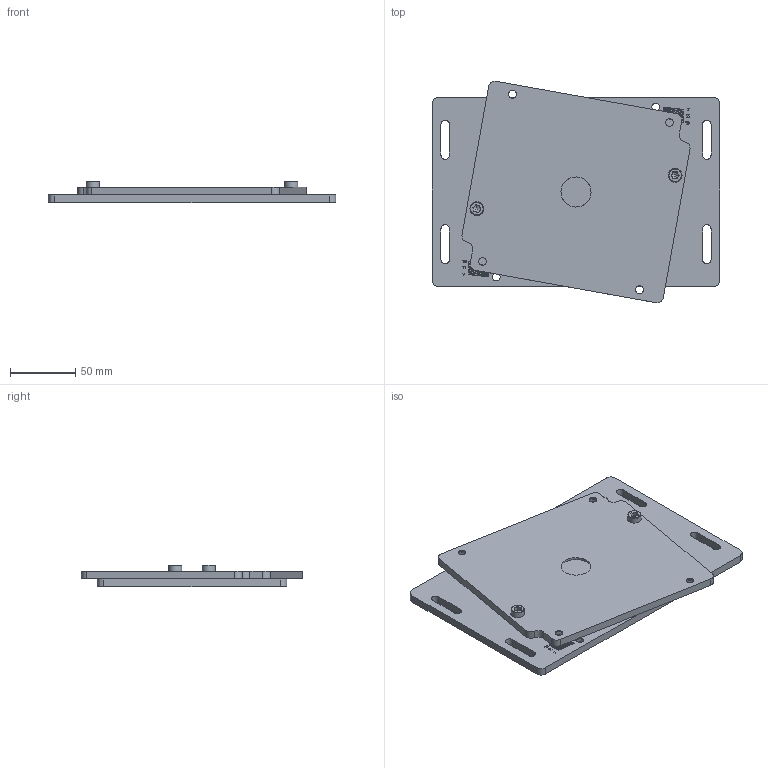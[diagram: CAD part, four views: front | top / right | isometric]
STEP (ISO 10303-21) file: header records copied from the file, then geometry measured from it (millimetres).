
FILE_DESCRIPTION(/* description */ ('Alibre Inc.'),/* implementation_level */ '2;1');
FILE_NAME(/* name */ 'export-7478919D-913A-431E-BB24-BED98D5BB262',/* time_stamp */ '2021-11-16T12:02:25+01:00',/* author */ (''),/* organization */ (''),/* preprocessor_version */ 'ST-DEVELOPER v17',/* originating_system */ 'Alibre',/* authorisation */ '');
FILE_SCHEMA (('AUTOMOTIVE_DESIGN'));
Length unit declared in the file: centimetre
Products named in the file (7): 12-1070-00; ISO 4035 - d M6 - 04
Bounding box: 220 x 169.35 x 16.5 mm (x, y, z)
Volume: 315871.7 mm3; surface area: 121226.9 mm2
Topology: 7 solids, 7 shells, 499 faces, 1248 edges, 788 vertices
Faces by surface type: plane 223, bspline 112, cylinder 96, cone 50, torus 18
Full cylindrical faces by diameter (mm): 4.917 x4, 6 x10, 6.5 x2, 10 x2, 10.5 x2, 12 x8, 23 x2, 30 x1, 30.1 x1
Entity records: 14313 total; most frequent: CARTESIAN_POINT 5300, ORIENTED_EDGE 1900, DIRECTION 1466, EDGE_CURVE 950, VERTEX_POINT 638, VECTOR 572, LINE 572, AXIS2_PLACEMENT_3D 554
